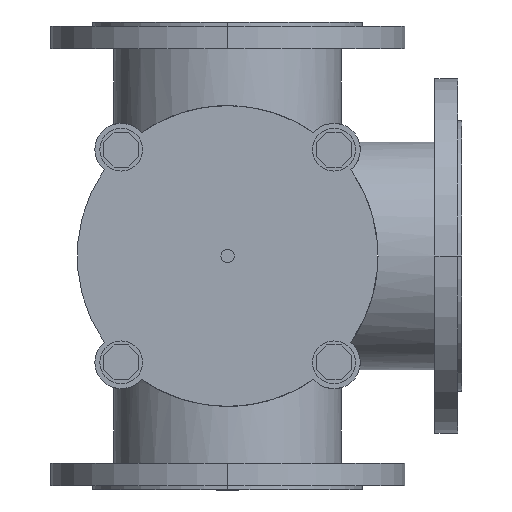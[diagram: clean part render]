
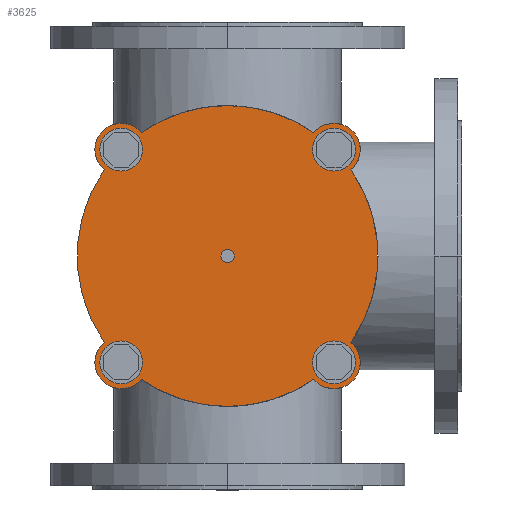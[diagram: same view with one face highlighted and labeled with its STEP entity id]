
A CAD part, front view. The second image highlights one B-rep face of the part: STEP entity #3625.
In plain terms, the highlighted planar face has unit normal (0, -1, 0).
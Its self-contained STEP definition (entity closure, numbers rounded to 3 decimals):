
#3177=CARTESIAN_POINT('',(79.55,-144.,274.237));
#3178=VERTEX_POINT('',#3177);
#3187=CARTESIAN_POINT('',(92.199,-144.,239.464));
#3188=VERTEX_POINT('',#3187);
#3189=CARTESIAN_POINT('',(79.55,-144.,254.55));
#3190=DIRECTION('',(0.0,1.0,0.0));
#3191=DIRECTION('',(0.0,0.0,-1.0));
#3192=AXIS2_PLACEMENT_3D('',#3189,#3190,#3191);
#3193=CIRCLE('',#3192,19.688);
#3194=EDGE_CURVE('',#3178,#3188,#3193,.T.);
#3240=CARTESIAN_POINT('',(-79.55,-144.,274.237));
#3241=VERTEX_POINT('',#3240);
#3250=CARTESIAN_POINT('',(-64.464,-144.,267.199));
#3251=VERTEX_POINT('',#3250);
#3252=CARTESIAN_POINT('',(-79.55,-144.,254.55));
#3253=DIRECTION('',(0.0,-1.0,0.0));
#3254=DIRECTION('',(0.0,0.0,-1.0));
#3255=AXIS2_PLACEMENT_3D('',#3252,#3253,#3254);
#3256=CIRCLE('',#3255,19.688);
#3257=EDGE_CURVE('',#3251,#3241,#3256,.T.);
#3282=CARTESIAN_POINT('',(0.,-144.,287.5));
#3283=VERTEX_POINT('',#3282);
#3292=CARTESIAN_POINT('',(64.464,-144.,267.199));
#3293=VERTEX_POINT('',#3292);
#3294=CARTESIAN_POINT('',(0.0,-144.,175.));
#3295=DIRECTION('',(0.0,-1.0,0.0));
#3296=DIRECTION('',(0.0,0.0,1.0));
#3297=AXIS2_PLACEMENT_3D('',#3294,#3295,#3296);
#3298=CIRCLE('',#3297,112.5);
#3299=EDGE_CURVE('',#3293,#3283,#3298,.T.);
#3345=CARTESIAN_POINT('',(79.55,-144.0,75.763));
#3346=VERTEX_POINT('',#3345);
#3355=CARTESIAN_POINT('',(64.464,-144.0,82.801));
#3356=VERTEX_POINT('',#3355);
#3357=CARTESIAN_POINT('',(79.55,-144.,95.45));
#3358=DIRECTION('',(0.0,-1.0,0.0));
#3359=DIRECTION('',(0.0,0.0,1.0));
#3360=AXIS2_PLACEMENT_3D('',#3357,#3358,#3359);
#3361=CIRCLE('',#3360,19.688);
#3362=EDGE_CURVE('',#3356,#3346,#3361,.T.);
#3389=CARTESIAN_POINT('',(0.,-144.,62.5));
#3390=VERTEX_POINT('',#3389);
#3405=CARTESIAN_POINT('',(0.0,-144.,175.));
#3406=DIRECTION('',(0.0,-1.0,0.0));
#3407=DIRECTION('',(0.0,0.0,1.0));
#3408=AXIS2_PLACEMENT_3D('',#3405,#3406,#3407);
#3409=CIRCLE('',#3408,112.5);
#3410=EDGE_CURVE('',#3390,#3356,#3409,.T.);
#3420=CARTESIAN_POINT('',(-79.55,-144.0,75.763));
#3421=VERTEX_POINT('',#3420);
#3430=CARTESIAN_POINT('',(-92.199,-144.,110.536));
#3431=VERTEX_POINT('',#3430);
#3432=CARTESIAN_POINT('',(-79.55,-144.,95.45));
#3433=DIRECTION('',(0.0,1.0,0.0));
#3434=DIRECTION('',(0.0,0.0,1.0));
#3435=AXIS2_PLACEMENT_3D('',#3432,#3433,#3434);
#3436=CIRCLE('',#3435,19.688);
#3437=EDGE_CURVE('',#3421,#3431,#3436,.T.);
#3540=CARTESIAN_POINT('',(-64.464,-144.0,82.801));
#3541=VERTEX_POINT('',#3540);
#3548=CARTESIAN_POINT('',(-79.55,-144.,95.45));
#3549=DIRECTION('',(0.0,1.0,0.0));
#3550=DIRECTION('',(0.0,0.0,1.0));
#3551=AXIS2_PLACEMENT_3D('',#3548,#3549,#3550);
#3552=CIRCLE('',#3551,19.688);
#3553=EDGE_CURVE('',#3541,#3421,#3552,.T.);
#3558=CARTESIAN_POINT('',(79.55,-144.,254.55));
#3559=DIRECTION('',(0.0,1.0,0.0));
#3560=DIRECTION('',(0.0,0.0,1.0));
#3561=AXIS2_PLACEMENT_3D('',#3558,#3559,#3560);
#3562=PLANE('',#3561);
#3563=CARTESIAN_POINT('',(0.0,-144.,175.));
#3564=DIRECTION('',(0.0,-1.0,0.0));
#3565=DIRECTION('',(0.0,0.0,1.0));
#3566=AXIS2_PLACEMENT_3D('',#3563,#3564,#3565);
#3567=CIRCLE('',#3566,112.5);
#3568=EDGE_CURVE('',#3541,#3390,#3567,.T.);
#3569=ORIENTED_EDGE('',*,*,#3568,.T.);
#3570=ORIENTED_EDGE('',*,*,#3410,.T.);
#3571=ORIENTED_EDGE('',*,*,#3362,.T.);
#3572=CARTESIAN_POINT('',(92.199,-144.,110.536));
#3573=VERTEX_POINT('',#3572);
#3574=CARTESIAN_POINT('',(79.55,-144.,95.45));
#3575=DIRECTION('',(0.0,-1.0,0.0));
#3576=DIRECTION('',(0.0,0.0,1.0));
#3577=AXIS2_PLACEMENT_3D('',#3574,#3575,#3576);
#3578=CIRCLE('',#3577,19.688);
#3579=EDGE_CURVE('',#3346,#3573,#3578,.T.);
#3580=ORIENTED_EDGE('',*,*,#3579,.T.);
#3581=CARTESIAN_POINT('',(0.0,-144.,175.));
#3582=DIRECTION('',(0.0,-1.0,0.0));
#3583=DIRECTION('',(0.0,0.0,1.0));
#3584=AXIS2_PLACEMENT_3D('',#3581,#3582,#3583);
#3585=CIRCLE('',#3584,112.5);
#3586=EDGE_CURVE('',#3573,#3188,#3585,.T.);
#3587=ORIENTED_EDGE('',*,*,#3586,.T.);
#3588=ORIENTED_EDGE('',*,*,#3194,.F.);
#3589=CARTESIAN_POINT('',(79.55,-144.,254.55));
#3590=DIRECTION('',(0.0,1.0,0.0));
#3591=DIRECTION('',(0.0,0.0,-1.0));
#3592=AXIS2_PLACEMENT_3D('',#3589,#3590,#3591);
#3593=CIRCLE('',#3592,19.688);
#3594=EDGE_CURVE('',#3293,#3178,#3593,.T.);
#3595=ORIENTED_EDGE('',*,*,#3594,.F.);
#3596=ORIENTED_EDGE('',*,*,#3299,.T.);
#3597=CARTESIAN_POINT('',(0.0,-144.,175.));
#3598=DIRECTION('',(0.0,-1.0,0.0));
#3599=DIRECTION('',(0.0,0.0,1.0));
#3600=AXIS2_PLACEMENT_3D('',#3597,#3598,#3599);
#3601=CIRCLE('',#3600,112.5);
#3602=EDGE_CURVE('',#3283,#3251,#3601,.T.);
#3603=ORIENTED_EDGE('',*,*,#3602,.T.);
#3604=ORIENTED_EDGE('',*,*,#3257,.T.);
#3605=CARTESIAN_POINT('',(-92.199,-144.,239.464));
#3606=VERTEX_POINT('',#3605);
#3607=CARTESIAN_POINT('',(-79.55,-144.,254.55));
#3608=DIRECTION('',(0.0,-1.0,0.0));
#3609=DIRECTION('',(0.0,0.0,-1.0));
#3610=AXIS2_PLACEMENT_3D('',#3607,#3608,#3609);
#3611=CIRCLE('',#3610,19.688);
#3612=EDGE_CURVE('',#3241,#3606,#3611,.T.);
#3613=ORIENTED_EDGE('',*,*,#3612,.T.);
#3614=CARTESIAN_POINT('',(0.0,-144.,175.));
#3615=DIRECTION('',(0.0,-1.0,0.0));
#3616=DIRECTION('',(0.0,0.0,1.0));
#3617=AXIS2_PLACEMENT_3D('',#3614,#3615,#3616);
#3618=CIRCLE('',#3617,112.5);
#3619=EDGE_CURVE('',#3606,#3431,#3618,.T.);
#3620=ORIENTED_EDGE('',*,*,#3619,.T.);
#3621=ORIENTED_EDGE('',*,*,#3437,.F.);
#3622=ORIENTED_EDGE('',*,*,#3553,.F.);
#3623=EDGE_LOOP('',(#3569,#3570,#3571,#3580,#3587,#3588,#3595,#3596,#3603,#3604,#3613,#3620,#3621,#3622));
#3624=FACE_OUTER_BOUND('',#3623,.T.);
#3625=ADVANCED_FACE('',(#3624),#3562,.F.);
